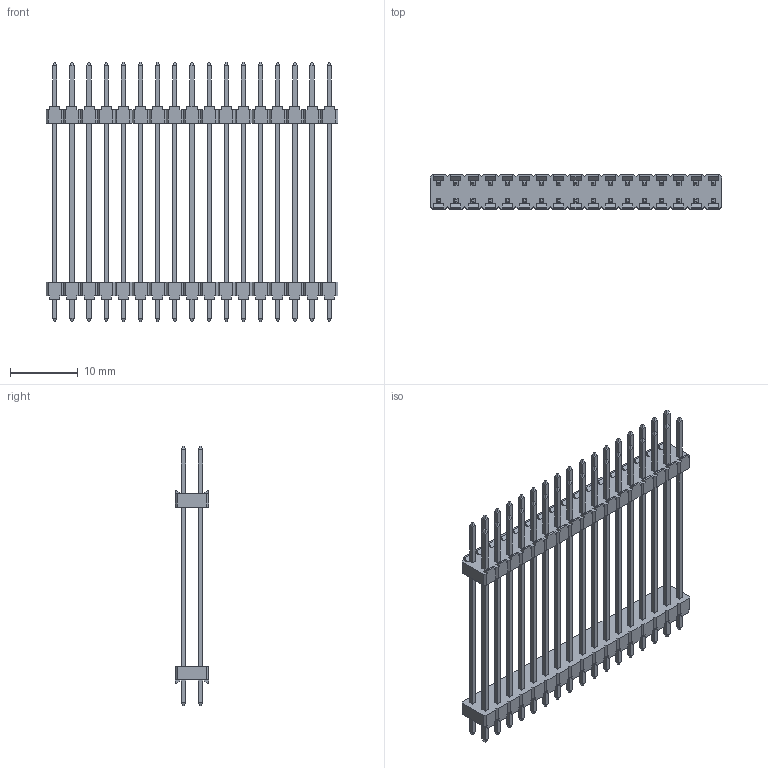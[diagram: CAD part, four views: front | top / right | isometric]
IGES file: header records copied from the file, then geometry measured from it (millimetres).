
Global section: file name: N:\GOLF_VI_2_54mm_UGII\9614XX-X04XX04-XX (TS-2185)\961434-8041504-XX.igs; native system: NX V3.0; preprocessor: UGS NX IGES V4.0; date: 20070618.112041; units: millimetre
Bounding box: 43.18 x 5 x 38.4 mm (x, y, z)
Surface area: 4267.4 mm2 (no closed solid volume)
Topology: 0 solids, 0 shells, 1304 faces, 6849 edges, 6849 vertices
Faces by surface type: bspline 1304
